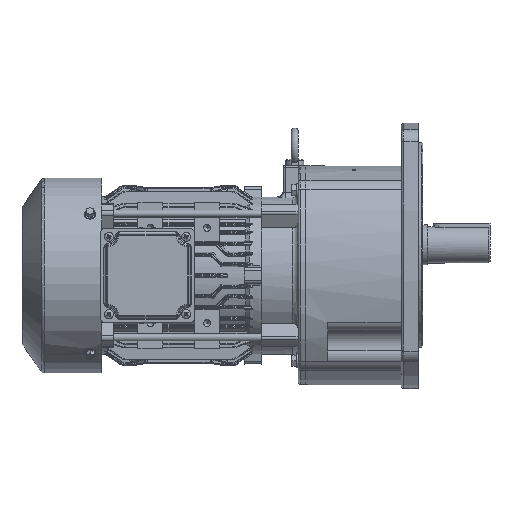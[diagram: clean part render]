
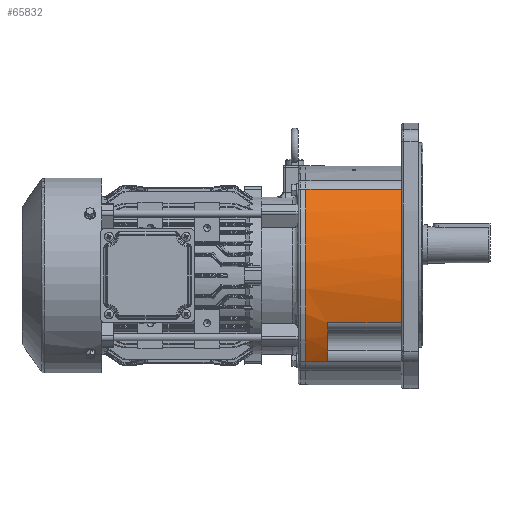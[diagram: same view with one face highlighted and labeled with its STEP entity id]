
A CAD part, front view. The second image highlights one B-rep face of the part: STEP entity #65832.
In plain terms, the highlighted cylindrical face has radius 140 mm (diameter 280 mm), a partial arc.
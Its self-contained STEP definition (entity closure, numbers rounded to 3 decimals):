
#3903=CYLINDRICAL_SURFACE('',#70170,140.);
#5208=FACE_OUTER_BOUND('',#9118,.T.);
#9118=EDGE_LOOP('',(#44176,#44177,#44178,#44179,#44180,#44181,#44182,#44183));
#13694=CIRCLE('',#70142,140.);
#13706=CIRCLE('',#70154,140.);
#13717=CIRCLE('',#70171,140.);
#13718=CIRCLE('',#70172,140.);
#16070=LINE('',#96394,#21153);
#16072=LINE('',#96399,#21155);
#16073=LINE('',#96401,#21156);
#16074=LINE('',#96404,#21157);
#21153=VECTOR('',#77745,10.);
#21155=VECTOR('',#77751,10.);
#21156=VECTOR('',#77752,10.);
#21157=VECTOR('',#77755,10.);
#26449=VERTEX_POINT('',#96339);
#26450=VERTEX_POINT('',#96340);
#26461=VERTEX_POINT('',#96362);
#26462=VERTEX_POINT('',#96364);
#26472=VERTEX_POINT('',#96392);
#26473=VERTEX_POINT('',#96397);
#26474=VERTEX_POINT('',#96400);
#26475=VERTEX_POINT('',#96402);
#33208=EDGE_CURVE('',#26449,#26450,#13694,.T.);
#33220=EDGE_CURVE('',#26461,#26462,#13706,.T.);
#33234=EDGE_CURVE('',#26472,#26461,#16070,.T.);
#33236=EDGE_CURVE('',#26473,#26472,#13717,.T.);
#33237=EDGE_CURVE('',#26450,#26473,#16072,.T.);
#33238=EDGE_CURVE('',#26474,#26449,#16073,.T.);
#33239=EDGE_CURVE('',#26474,#26475,#13718,.T.);
#33240=EDGE_CURVE('',#26462,#26475,#16074,.T.);
#44176=ORIENTED_EDGE('',*,*,#33234,.F.);
#44177=ORIENTED_EDGE('',*,*,#33236,.F.);
#44178=ORIENTED_EDGE('',*,*,#33237,.F.);
#44179=ORIENTED_EDGE('',*,*,#33208,.F.);
#44180=ORIENTED_EDGE('',*,*,#33238,.F.);
#44181=ORIENTED_EDGE('',*,*,#33239,.T.);
#44182=ORIENTED_EDGE('',*,*,#33240,.F.);
#44183=ORIENTED_EDGE('',*,*,#33220,.F.);
#65832=ADVANCED_FACE('',(#5208),#3903,.T.);
#70142=AXIS2_PLACEMENT_3D('',#96341,#77686,#77687);
#70154=AXIS2_PLACEMENT_3D('',#96365,#77710,#77711);
#70170=AXIS2_PLACEMENT_3D('',#96396,#77747,#77748);
#70171=AXIS2_PLACEMENT_3D('',#96398,#77749,#77750);
#70172=AXIS2_PLACEMENT_3D('',#96403,#77753,#77754);
#77686=DIRECTION('center_axis',(1.,0.,0.));
#77687=DIRECTION('ref_axis',(0.,0.815,0.58));
#77710=DIRECTION('center_axis',(1.,0.,0.));
#77711=DIRECTION('ref_axis',(0.,0.815,0.58));
#77745=DIRECTION('',(1.,0.,0.));
#77747=DIRECTION('center_axis',(-1.,0.,0.));
#77748=DIRECTION('ref_axis',(0.,0.815,0.58));
#77749=DIRECTION('center_axis',(-1.,0.,0.));
#77750=DIRECTION('ref_axis',(0.,0.815,0.58));
#77751=DIRECTION('',(-1.,0.,0.));
#77752=DIRECTION('',(1.,0.,0.));
#77753=DIRECTION('center_axis',(-1.,0.,0.));
#77754=DIRECTION('ref_axis',(0.,0.815,0.58));
#77755=DIRECTION('',(-1.,0.,0.));
#96339=CARTESIAN_POINT('',(53.862,-68.17,-69.698));
#96340=CARTESIAN_POINT('',(53.862,-67.824,-70.236));
#96341=CARTESIAN_POINT('Origin',(53.862,49.762,5.748));
#96362=CARTESIAN_POINT('',(53.862,-67.824,81.732));
#96364=CARTESIAN_POINT('',(53.862,-83.896,-35.911));
#96365=CARTESIAN_POINT('Origin',(53.862,49.762,5.748));
#96392=CARTESIAN_POINT('',(-30.138,-67.824,81.732));
#96394=CARTESIAN_POINT('',(53.862,-67.824,81.732));
#96396=CARTESIAN_POINT('Origin',(53.862,49.762,5.748));
#96397=CARTESIAN_POINT('',(-30.138,-67.824,-70.236));
#96398=CARTESIAN_POINT('Origin',(-30.138,49.762,5.748));
#96399=CARTESIAN_POINT('',(53.862,-67.824,-70.236));
#96400=CARTESIAN_POINT('',(-11.138,-68.17,-69.698));
#96401=CARTESIAN_POINT('',(53.862,-68.17,-69.698));
#96402=CARTESIAN_POINT('',(-11.138,-83.896,-35.911));
#96403=CARTESIAN_POINT('Origin',(-11.138,49.762,5.748));
#96404=CARTESIAN_POINT('',(53.862,-83.896,-35.911));
